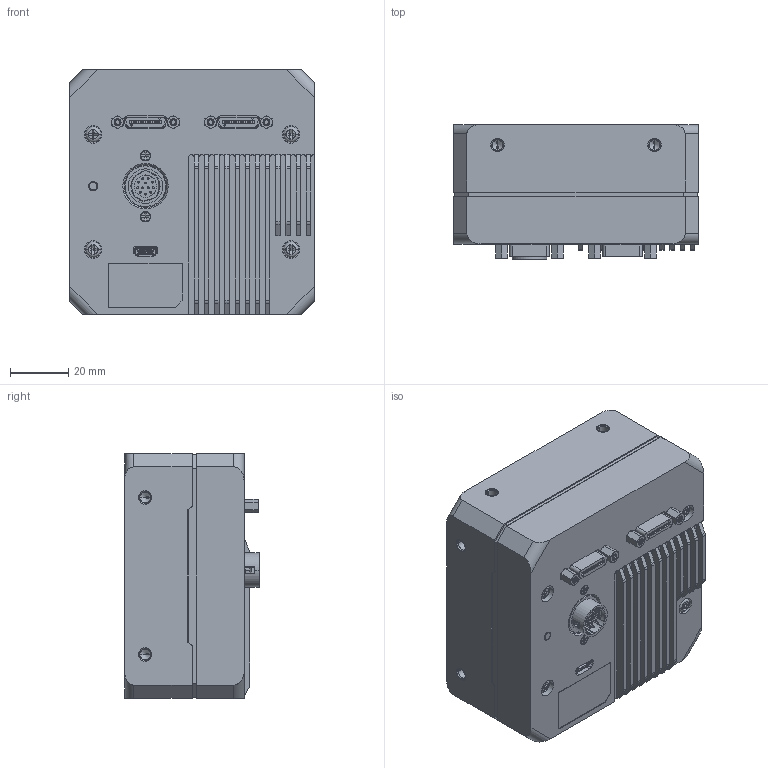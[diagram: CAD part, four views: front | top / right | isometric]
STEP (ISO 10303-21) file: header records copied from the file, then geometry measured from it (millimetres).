
FILE_DESCRIPTION((''),'2;1');
FILE_NAME('8K-CL-ALL_ASM','2022-03-16T11:26:41',('mafangning'),(''),'CREO PARAMETRIC BY PTC INC, 2020044','CREO PARAMETRIC BY PTC INC, 2020044','');
FILE_SCHEMA(('CONFIG_CONTROL_DESIGN'));
Products named in the file (19): DE-14-017329; 101303143; HR10A-10R-12PB_; 101303137_; 101236851_ASM; D-01-35-26-0869; ST-S4X5-M2X6-F2X4-B; SC-KM2X4B; DE-14-017310; SC-PM2X6B-JMP; DE-19-000836; 0001; DE-14-017347; 00; MV-20267REV10-202112212037_ASM_ASM; ST-S5X18-M3X6-F3X12-B; SC-PB3_12B_SUS_JMP; SC-PM3X10-BNI-SUS-JMP; 8K-CL-ALL_ASM
Assembly tree (30 placements, depth 3):
  8K-CL-ALL_ASM
    DE-14-017329
    101236851_ASM
      101303143  x2
      HR10A-10R-12PB_
      101303137_
    D-01-35-26-0869
    ST-S4X5-M2X6-F2X4-B  x4
    SC-KM2X4B  x2
    DE-14-017310
    SC-PM2X6B-JMP
    DE-19-000836  x2
    0001  x4
    DE-14-017347
    00  x2
    MV-20267REV10-202112212037_ASM_ASM
    ST-S5X18-M3X6-F3X12-B
    SC-PB3_12B_SUS_JMP  x3
    SC-PM3X10-BNI-SUS-JMP
Bounding box: 84 x 46.23 x 84 mm (x, y, z)
Volume: 99390.1 mm3; surface area: 73416.8 mm2
Topology: 28 solids, 72 shells, 3074 faces, 8187 edges, 5344 vertices
Faces by surface type: plane 2060, cylinder 790, cone 158, bspline 48, torus 16, sphere 2
Entity records: 74865 total; most frequent: CARTESIAN_POINT 14278, ORIENTED_EDGE 12504, DIRECTION 12417, EDGE_CURVE 6318, VECTOR 4579, LINE 4579, VERTEX_POINT 4152, AXIS2_PLACEMENT_3D 3919
